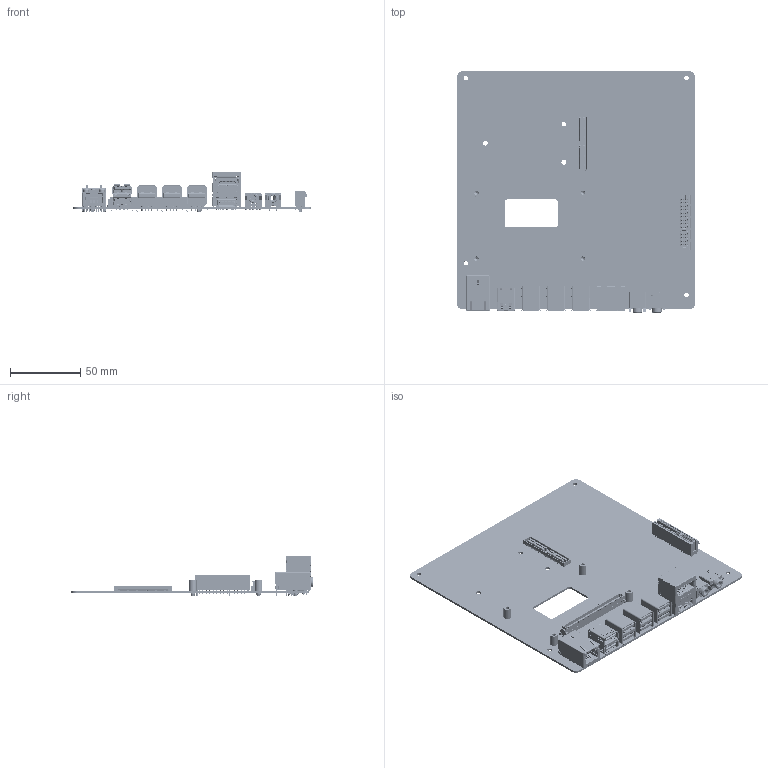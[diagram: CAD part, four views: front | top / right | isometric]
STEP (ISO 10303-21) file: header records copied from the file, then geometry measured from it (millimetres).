
FILE_DESCRIPTION((''),'2;1');
FILE_NAME('00_EEV-EX15_01_ASM','2019-01-25T17:36:05',('owen_lee'),(''),'CREO PARAMETRIC BY PTC INC, 2017110','CREO PARAMETRIC BY PTC INC, 2017110','');
FILE_SCHEMA(('CONFIG_CONTROL_DESIGN','GEOMETRIC_VALIDATION_PROPERTIES_MIM'));
Products named in the file (51): EEV-EX15; BREP_WITH_VOIDS_166565; MANIFOLD_SOLID_BREP_166847; MANIFOLD_SOLID_BREP_167129; MANIFOLD_SOLID_BREP_167411; MANIFOLD_SOLID_BREP_167693; MANIFOLD_SOLID_BREP_168041; MANIFOLD_SOLID_BREP_168323; MANIFOLD_SOLID_BREP_168605; MANIFOLD_SOLID_BREP_168887; MANIFOLD_SOLID_BREP_169169; MANIFOLD_SOLID_BREP_169517; MANIFOLD_SOLID_BREP_169667; MANIFOLD_SOLID_BREP_169817; MANIFOLD_SOLID_BREP_169967; MANIFOLD_SOLID_BREP_170117; MANIFOLD_SOLID_BREP_170267; MANIFOLD_SOLID_BREP_170417; MANIFOLD_SOLID_BREP_170567; MANIFOLD_SOLID_BREP_170717; MANIFOLD_SOLID_BREP_170867; MANIFOLD_SOLID_BREP_171017; MANIFOLD_SOLID_BREP_171167; MANIFOLD_SOLID_BREP_171317; MANIFOLD_SOLID_BREP_171467; MANIFOLD_SOLID_BREP_171617; MANIFOLD_SOLID_BREP_171767; MANIFOLD_SOLID_BREP_171917; MANIFOLD_SOLID_BREP_172067; MANIFOLD_SOLID_BREP_172217; MANIFOLD_SOLID_BREP_172367; MANIFOLD_SOLID_BREP_172517; MANIFOLD_SOLID_BREP_172667; MANIFOLD_SOLID_BREP_172817; MANIFOLD_SOLID_BREP_172967; MANIFOLD_SOLID_BREP_173117; MANIFOLD_SOLID_BREP_173267; MANIFOLD_SOLID_BREP_173417; MANIFOLD_SOLID_BREP_173567; MANIFOLD_SOLID_BREP_173717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
Assembly tree (55 placements, depth 3):
  00_EEV-EX15_01_ASM
    EEV-EX15
    E1652514306R_ASM
      BREP_WITH_VOIDS_166565
      MANIFOLD_SOLID_BREP_166847
      MANIFOLD_SOLID_BREP_167129
      MANIFOLD_SOLID_BREP_167411
      MANIFOLD_SOLID_BREP_167693
      MANIFOLD_SOLID_BREP_168041
      MANIFOLD_SOLID_BREP_168323
      MANIFOLD_SOLID_BREP_168605
      MANIFOLD_SOLID_BREP_168887
      MANIFOLD_SOLID_BREP_169169
      MANIFOLD_SOLID_BREP_169517
      MANIFOLD_SOLID_BREP_169667
      MANIFOLD_SOLID_BREP_169817
      MANIFOLD_SOLID_BREP_169967
      MANIFOLD_SOLID_BREP_170117
      MANIFOLD_SOLID_BREP_170267
      MANIFOLD_SOLID_BREP_170417
      MANIFOLD_SOLID_BREP_170567
      MANIFOLD_SOLID_BREP_170717
      MANIFOLD_SOLID_BREP_170867
      MANIFOLD_SOLID_BREP_171017
      MANIFOLD_SOLID_BREP_171167
      MANIFOLD_SOLID_BREP_171317
      MANIFOLD_SOLID_BREP_171467
      MANIFOLD_SOLID_BREP_171617
      MANIFOLD_SOLID_BREP_171767
      MANIFOLD_SOLID_BREP_171917
      MANIFOLD_SOLID_BREP_172067
      MANIFOLD_SOLID_BREP_172217
      MANIFOLD_SOLID_BREP_172367
      MANIFOLD_SOLID_BREP_172517
      MANIFOLD_SOLID_BREP_172667
      MANIFOLD_SOLID_BREP_172817
      MANIFOLD_SOLID_BREP_172967
      MANIFOLD_SOLID_BREP_173117
      MANIFOLD_SOLID_BREP_173267
      MANIFOLD_SOLID_BREP_173417
      MANIFOLD_SOLID_BREP_173567
      MANIFOLD_SOLID_BREP_173717
    E16D5I00301R
    E1654808307R  x3
    E16F1439030H
    E1652506309R
    E16H1671300R
    E16B3322021R
    E193A3108X0R  x4
    1671440220H_ASM_2_ASM
    E16712B0220H
Bounding box: 170 x 172.3 x 29.1 mm (x, y, z)
Volume: 62235.8 mm3; surface area: 107020.2 mm2
Topology: 96 solids, 98 shells, 21137 faces, 61092 edges, 39479 vertices
Faces by surface type: plane 16055, cylinder 4488, bspline 438, torus 65, cone 48, extrusion 24, sphere 10, revolution 9
Entity records: 791356 total; most frequent: CARTESIAN_POINT 139039, ORIENTED_EDGE 120076, DIRECTION 108887, EDGE_CURVE 60052, VECTOR 49730, LINE 49706, VERTEX_POINT 38807, AXIS2_PLACEMENT_3D 29574
